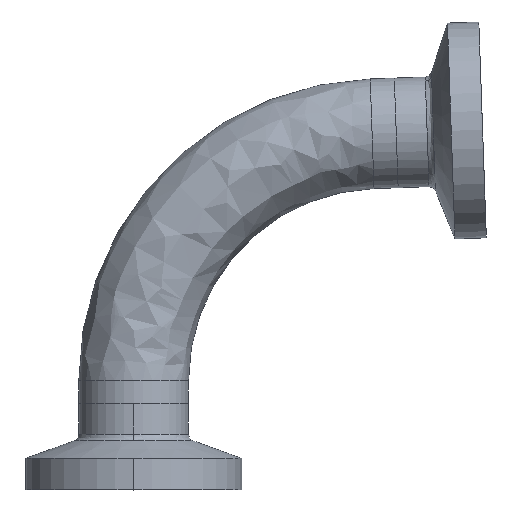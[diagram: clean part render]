
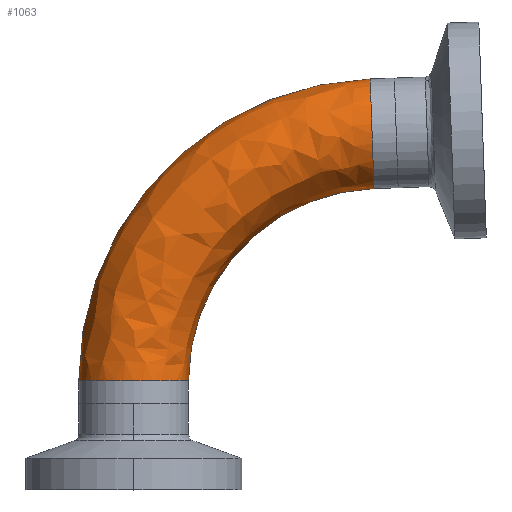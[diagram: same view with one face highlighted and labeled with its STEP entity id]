
A CAD part, top view. The second image highlights one B-rep face of the part: STEP entity #1063.
In plain terms, the highlighted free-form (B-spline) face has degree [3, 3] with [4, 4] control points.
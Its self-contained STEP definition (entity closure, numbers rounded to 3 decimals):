
#43 = CARTESIAN_POINT ( 'NONE',  ( 27.38, 37.56, 0. ) ) ;
#63 = DIRECTION ( 'NONE',  ( -0.035, 0.999, 0. ) ) ;
#151 =( BOUNDED_SURFACE ( )  B_SPLINE_SURFACE ( 3, 3, ( 
 ( #919, #834, #632, #714 ),
 ( #1112, #353, #562, #1104 ),
 ( #502, #1234, #1078, #1900 ),
 ( #807, #523, #1837, #205 ) ),
 .UNSPECIFIED., .F., .F., .F. ) 
 B_SPLINE_SURFACE_WITH_KNOTS ( ( 4, 4 ),
 ( 4, 4 ),
 ( 0., 1. ),
 ( 0., 1. ),
 .UNSPECIFIED. ) 
 GEOMETRIC_REPRESENTATION_ITEM ( )  RATIONAL_B_SPLINE_SURFACE ( (
 ( 1., 0.813, 0.813, 1.),
 ( 0.333, 0.271, 0.271, 0.333),
 ( 0.333, 0.271, 0.271, 0.333),
 ( 1., 0.813, 0.813, 1.) ) ) 
 REPRESENTATION_ITEM ( '' )  SURFACE ( )  );
#165 = CARTESIAN_POINT ( 'NONE',  ( 27.602, 31.213, 0. ) ) ;
#205 = CARTESIAN_POINT ( 'NONE',  ( 27.823, 24.867, 0. ) ) ;
#349 = CIRCLE ( 'NONE', #883, 34.95 ) ;
#353 = CARTESIAN_POINT ( 'NONE',  ( -6.35, 22.542, 12.7 ) ) ;
#457 = DIRECTION ( 'NONE',  ( -1., 0., 0. ) ) ;
#467 = CIRCLE ( 'NONE', #1988, 22.25 ) ;
#490 = CARTESIAN_POINT ( 'NONE',  ( 28.6, 2.631, 0. ) ) ;
#502 = CARTESIAN_POINT ( 'NONE',  ( 6.35, 2.631, 12.7 ) ) ;
#523 = CARTESIAN_POINT ( 'NONE',  ( 6.35, 15.307, 0. ) ) ;
#536 = DIRECTION ( 'NONE',  ( 0., 0., -1. ) ) ;
#562 = CARTESIAN_POINT ( 'NONE',  ( 7.481, 36.865, 12.7 ) ) ;
#632 = CARTESIAN_POINT ( 'NONE',  ( 7.481, 36.865, 0. ) ) ;
#649 = ORIENTED_EDGE ( 'NONE', *, *, #717, .T. ) ;
#714 = CARTESIAN_POINT ( 'NONE',  ( 27.38, 37.56, 0. ) ) ;
#717 = EDGE_CURVE ( 'NONE', #1592, #1768, #467, .T. ) ;
#807 = CARTESIAN_POINT ( 'NONE',  ( 6.35, 2.631, 0. ) ) ;
#810 = AXIS2_PLACEMENT_3D ( 'NONE', #1468, #1431, #1399 ) ;
#834 = CARTESIAN_POINT ( 'NONE',  ( -6.35, 22.542, 0. ) ) ;
#883 = AXIS2_PLACEMENT_3D ( 'NONE', #490, #536, #457 ) ;
#911 = EDGE_CURVE ( 'NONE', #1768, #1957, #1738, .T. ) ;
#919 = CARTESIAN_POINT ( 'NONE',  ( -6.35, 2.631, 0. ) ) ;
#953 = ORIENTED_EDGE ( 'NONE', *, *, #1730, .F. ) ;
#1063 = ADVANCED_FACE ( 'NONE', ( #1571 ), #151, .T. ) ;
#1078 = CARTESIAN_POINT ( 'NONE',  ( 15.155, 24.425, 12.7 ) ) ;
#1104 = CARTESIAN_POINT ( 'NONE',  ( 27.38, 37.56, 12.7 ) ) ;
#1112 = CARTESIAN_POINT ( 'NONE',  ( -6.35, 2.631, 12.7 ) ) ;
#1234 = CARTESIAN_POINT ( 'NONE',  ( 6.35, 15.307, 12.7 ) ) ;
#1288 = CARTESIAN_POINT ( 'NONE',  ( 27.823, 24.867, 0. ) ) ;
#1356 = VERTEX_POINT ( 'NONE', #1945 ) ;
#1358 = EDGE_LOOP ( 'NONE', ( #1459, #649, #1439, #953 ) ) ;
#1399 = DIRECTION ( 'NONE',  ( -1., 0., 0. ) ) ;
#1431 = DIRECTION ( 'NONE',  ( 0., 1., 0. ) ) ;
#1439 = ORIENTED_EDGE ( 'NONE', *, *, #911, .T. ) ;
#1459 = ORIENTED_EDGE ( 'NONE', *, *, #1999, .T. ) ;
#1468 = CARTESIAN_POINT ( 'NONE',  ( 0., 2.631, 0. ) ) ;
#1566 = CARTESIAN_POINT ( 'NONE',  ( 6.35, 2.631, 0. ) ) ;
#1571 = FACE_OUTER_BOUND ( 'NONE', #1358, .T. ) ;
#1592 = VERTEX_POINT ( 'NONE', #1566 ) ;
#1730 = EDGE_CURVE ( 'NONE', #1356, #1957, #349, .T. ) ;
#1738 = CIRCLE ( 'NONE', #2047, 6.35 ) ;
#1768 = VERTEX_POINT ( 'NONE', #1288 ) ;
#1806 = DIRECTION ( 'NONE',  ( -0.999, -0.035, 0. ) ) ;
#1837 = CARTESIAN_POINT ( 'NONE',  ( 15.155, 24.425, 0. ) ) ;
#1900 = CARTESIAN_POINT ( 'NONE',  ( 27.823, 24.867, 12.7 ) ) ;
#1945 = CARTESIAN_POINT ( 'NONE',  ( -6.35, 2.631, 0. ) ) ;
#1953 = CIRCLE ( 'NONE', #810, 6.35 ) ;
#1957 = VERTEX_POINT ( 'NONE', #43 ) ;
#1967 = CARTESIAN_POINT ( 'NONE',  ( 28.6, 2.631, 0. ) ) ;
#1974 = DIRECTION ( 'NONE',  ( 0., 0., -1. ) ) ;
#1985 = DIRECTION ( 'NONE',  ( -1., 0., 0. ) ) ;
#1988 = AXIS2_PLACEMENT_3D ( 'NONE', #1967, #1974, #1985 ) ;
#1999 = EDGE_CURVE ( 'NONE', #1356, #1592, #1953, .T. ) ;
#2047 = AXIS2_PLACEMENT_3D ( 'NONE', #165, #1806, #63 ) ;
